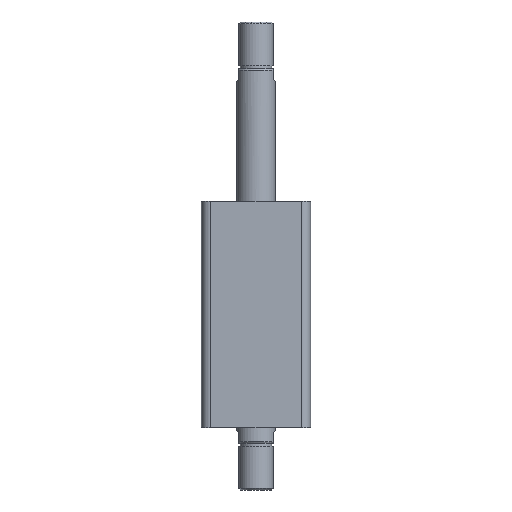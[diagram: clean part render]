
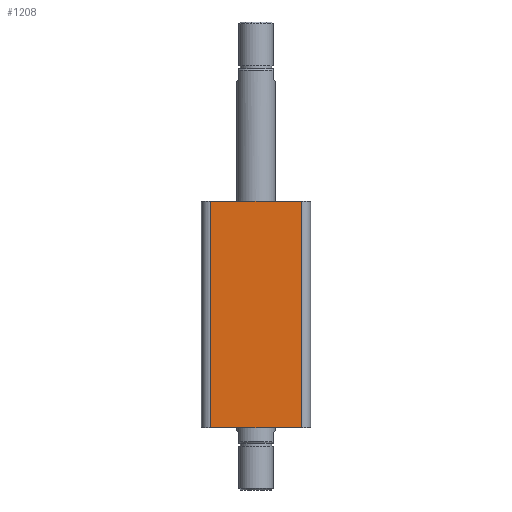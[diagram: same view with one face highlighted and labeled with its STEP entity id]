
A CAD part, front view. The second image highlights one B-rep face of the part: STEP entity #1208.
In plain terms, the highlighted planar face has unit normal (0, -1, 0).
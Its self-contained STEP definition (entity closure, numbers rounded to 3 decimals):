
#171 = CARTESIAN_POINT ( 'NONE',  ( -29., -35., 0. ) ) ;
#283 = DIRECTION ( 'NONE',  ( 0., 0., 1. ) ) ;
#284 = CARTESIAN_POINT ( 'NONE',  ( 29., -35., 145. ) ) ;
#285 = CARTESIAN_POINT ( 'NONE',  ( -35., -35., 0. ) ) ;
#286 = DIRECTION ( 'NONE',  ( 1., 0., 0. ) ) ;
#287 = DIRECTION ( 'NONE',  ( 0., 0., -1. ) ) ;
#288 = CARTESIAN_POINT ( 'NONE',  ( -29., -35., 145. ) ) ;
#295 = CARTESIAN_POINT ( 'NONE',  ( -35., -35., 145. ) ) ;
#296 = CARTESIAN_POINT ( 'NONE',  ( -29., -35., 145. ) ) ;
#328 = DIRECTION ( 'NONE',  ( 1., 0., 0. ) ) ;
#360 = EDGE_CURVE ( 'NONE', #390, #1398, #1540, .T. ) ;
#390 = VERTEX_POINT ( 'NONE', #296 ) ;
#396 = EDGE_CURVE ( 'NONE', #390, #540, #1554, .T. ) ;
#397 = EDGE_CURVE ( 'NONE', #540, #1403, #1547, .T. ) ;
#398 = EDGE_CURVE ( 'NONE', #1403, #1398, #1544, .T. ) ;
#540 = VERTEX_POINT ( 'NONE', #171 ) ;
#598 = CARTESIAN_POINT ( 'NONE',  ( -35., -35., 145. ) ) ;
#600 = PLANE ( 'NONE',  #2584 ) ;
#602 = DIRECTION ( 'NONE',  ( 0., 1., 0. ) ) ;
#603 = DIRECTION ( 'NONE',  ( 0., 0., 1. ) ) ;
#878 = CARTESIAN_POINT ( 'NONE',  ( 29., -35., 145. ) ) ;
#881 = CARTESIAN_POINT ( 'NONE',  ( 29., -35., 0. ) ) ;
#1208 = ADVANCED_FACE ( 'NONE', ( #3178 ), #600, .F. ) ;
#1398 = VERTEX_POINT ( 'NONE', #878 ) ;
#1403 = VERTEX_POINT ( 'NONE', #881 ) ;
#1540 = LINE ( 'NONE', #295, #1543 ) ;
#1543 = VECTOR ( 'NONE', #328, 1000. ) ;
#1544 = LINE ( 'NONE', #284, #1555 ) ;
#1547 = LINE ( 'NONE', #285, #1557 ) ;
#1552 = VECTOR ( 'NONE', #287, 1000. ) ;
#1554 = LINE ( 'NONE', #288, #1552 ) ;
#1555 = VECTOR ( 'NONE', #283, 1000. ) ;
#1557 = VECTOR ( 'NONE', #286, 1000. ) ;
#2584 = AXIS2_PLACEMENT_3D ( 'NONE', #598, #602, #603 ) ;
#2818 = ORIENTED_EDGE ( 'NONE', *, *, #360, .F. ) ;
#2819 = ORIENTED_EDGE ( 'NONE', *, *, #396, .T. ) ;
#2820 = ORIENTED_EDGE ( 'NONE', *, *, #397, .T. ) ;
#2821 = ORIENTED_EDGE ( 'NONE', *, *, #398, .T. ) ;
#3178 = FACE_OUTER_BOUND ( 'NONE', #3408, .T. ) ;
#3408 = EDGE_LOOP ( 'NONE', ( #2818, #2819, #2820, #2821 ) ) ;
